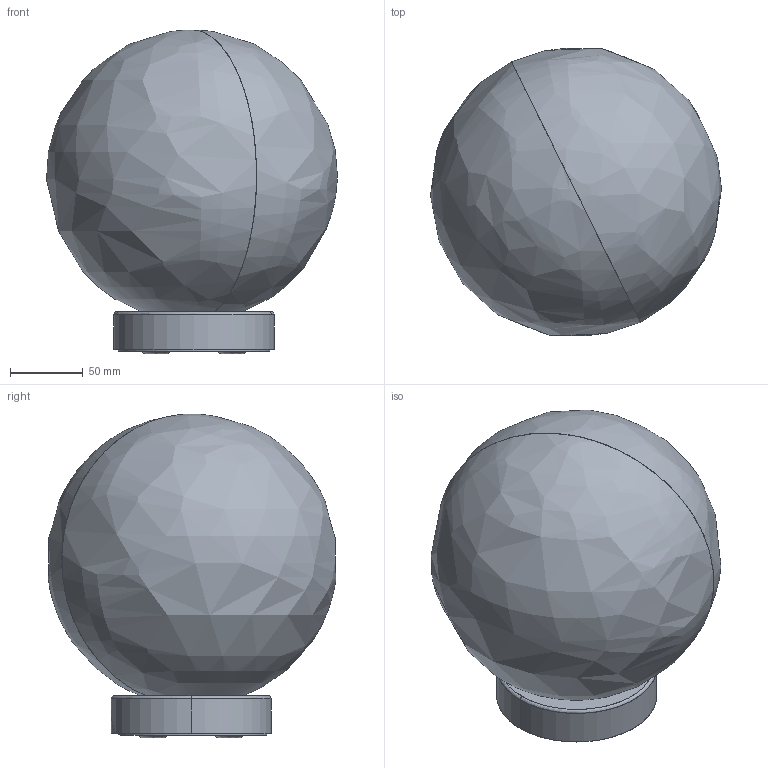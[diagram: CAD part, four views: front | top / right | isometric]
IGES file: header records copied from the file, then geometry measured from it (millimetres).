
Start section: SolidWorks IGES file using analytic representation for surfaces
Global section: file name: N:\- Ingeneria\DISEGNI\PRODOTTI\ASTEROIDE\PLAFONE\811ASTEHW431_asteroide plafone Ø20.IGS; native system: SolidWorks 2016; preprocessor: SolidWorks 2016; author: BenedettoLiVolsi; date: 220419.171012; units: millimetre
Bounding box: 199.9 x 197.53 x 222.57 mm (x, y, z)
Surface area: 290752.3 mm2 (no closed solid volume)
Topology: 0 solids, 0 shells, 187 faces, 3474 edges, 3470 vertices
Faces by surface type: revolution 103, bspline 84
